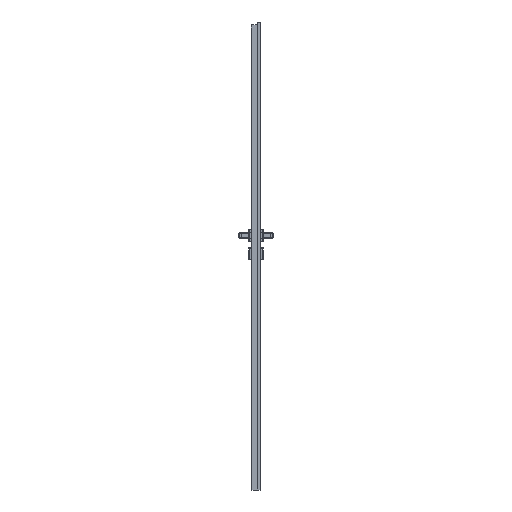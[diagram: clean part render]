
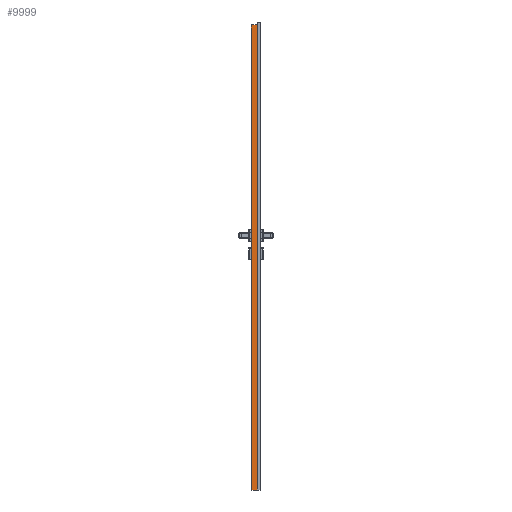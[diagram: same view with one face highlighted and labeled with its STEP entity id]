
A CAD part, left-side view. The second image highlights one B-rep face of the part: STEP entity #9999.
In plain terms, the highlighted planar face has unit normal (-1, 0, 0).
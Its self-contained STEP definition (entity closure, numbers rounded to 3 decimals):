
#5967=FACE_OUTER_BOUND('',#17831,.T.);
#9999=ADVANCED_FACE('',(#5967),#13985,.F.);
#13985=PLANE('',#71506);
#17831=EDGE_LOOP('',(#22606,#22607,#22608,#22609,#22610));
#22606=ORIENTED_EDGE('',*,*,#49956,.T.);
#22607=ORIENTED_EDGE('',*,*,#49968,.T.);
#22608=ORIENTED_EDGE('',*,*,#49977,.T.);
#22609=ORIENTED_EDGE('',*,*,#49978,.F.);
#22610=ORIENTED_EDGE('',*,*,#49979,.F.);
#43202=VERTEX_POINT('',#100748);
#43204=VERTEX_POINT('',#100752);
#43214=VERTEX_POINT('',#100775);
#43221=VERTEX_POINT('',#100794);
#43222=VERTEX_POINT('',#100796);
#49956=EDGE_CURVE('',#43202,#43204,#60346,.T.);
#49968=EDGE_CURVE('',#43204,#43214,#60353,.T.);
#49977=EDGE_CURVE('',#43214,#43221,#60359,.T.);
#49978=EDGE_CURVE('',#43222,#43221,#60360,.T.);
#49979=EDGE_CURVE('',#43202,#43222,#60361,.T.);
#60346=LINE('',#100753,#65896);
#60353=LINE('',#100776,#65903);
#60359=LINE('',#100793,#65909);
#60360=LINE('',#100795,#65910);
#60361=LINE('',#100797,#65911);
#65896=VECTOR('',#79225,1.);
#65903=VECTOR('',#79244,1.);
#65909=VECTOR('',#79260,1.);
#65910=VECTOR('',#79261,1.);
#65911=VECTOR('',#79262,1.);
#71506=AXIS2_PLACEMENT_3D('',#100798,#79263,#79264);
#79225=DIRECTION('',(0.,0.,-1.));
#79244=DIRECTION('',(0.,-0.707,-0.707));
#79260=DIRECTION('',(0.,-1.,0.));
#79261=DIRECTION('',(0.,0.,-1.));
#79262=DIRECTION('',(0.,-1.,0.));
#79263=DIRECTION('',(1.,0.,0.));
#79264=DIRECTION('',(0.,0.,-1.));
#100748=CARTESIAN_POINT('',(-309.,0.,2017.));
#100752=CARTESIAN_POINT('',(-309.,0.,2.));
#100753=CARTESIAN_POINT('',(-309.,0.,2030.));
#100775=CARTESIAN_POINT('',(-309.,-2.,0.));
#100776=CARTESIAN_POINT('',(-309.,0.,2.));
#100793=CARTESIAN_POINT('',(-309.,0.,0.));
#100794=CARTESIAN_POINT('',(-309.,-26.,0.));
#100795=CARTESIAN_POINT('',(-309.,-26.,2030.));
#100796=CARTESIAN_POINT('',(-309.,-26.,2017.));
#100797=CARTESIAN_POINT('',(-309.,0.,2017.));
#100798=CARTESIAN_POINT('',(-309.,0.,2030.));
